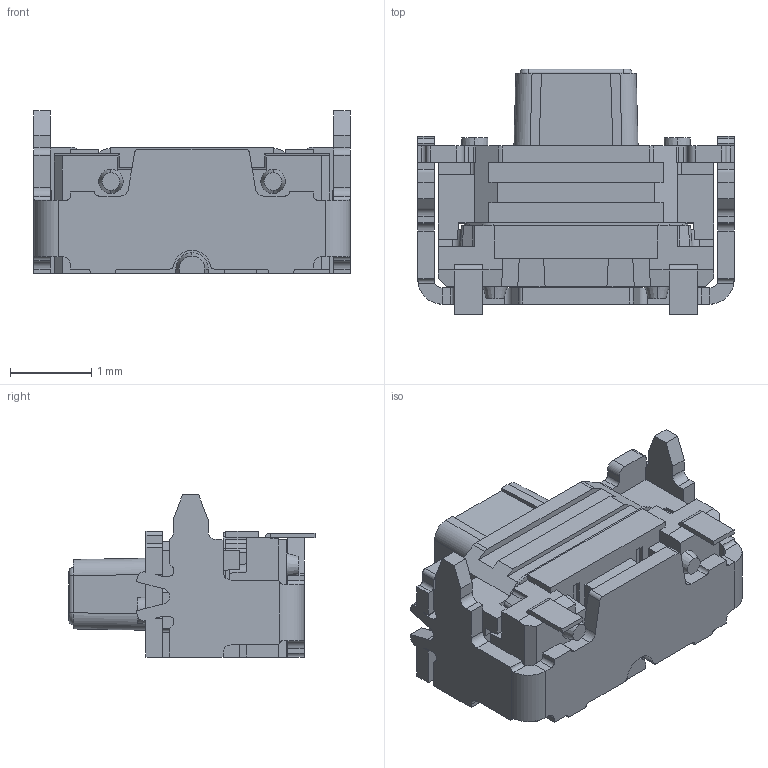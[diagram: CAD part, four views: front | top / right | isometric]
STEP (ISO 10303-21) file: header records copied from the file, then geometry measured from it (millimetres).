
FILE_DESCRIPTION (( 'STEP AP214' ), '1' );
FILE_NAME ('SKTDLDE010.STEP', '2013-12-02T05:39:24', ( 'user' ), ( 'Hewlett-Packard Company' ), 'SwSTEP 2.0', 'SolidWorks 2012', '' );
FILE_SCHEMA (( 'AUTOMOTIVE_DESIGN' ));
Length unit declared in the file: millimetre
Products named in the file (1): SKTDLDE010
Bounding box: 3.9 x 3.04 x 2 mm (x, y, z)
Volume: 10.8 mm3; surface area: 64.4 mm2
Topology: 1 solids, 1 shells, 428 faces, 1233 edges, 812 vertices
Faces by surface type: plane 290, cylinder 122, cone 10, bspline 4, torus 2
Entity records: 14100 total; most frequent: CARTESIAN_POINT 2764, ORIENTED_EDGE 2466, DIRECTION 2266, EDGE_CURVE 1233, LINE 934, VECTOR 934, VERTEX_POINT 812, AXIS2_PLACEMENT_3D 666
